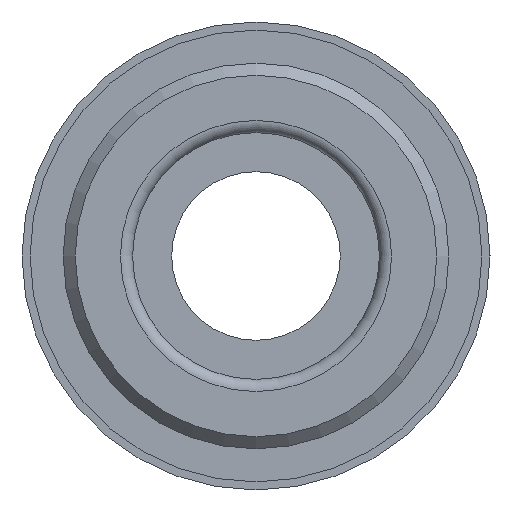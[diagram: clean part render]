
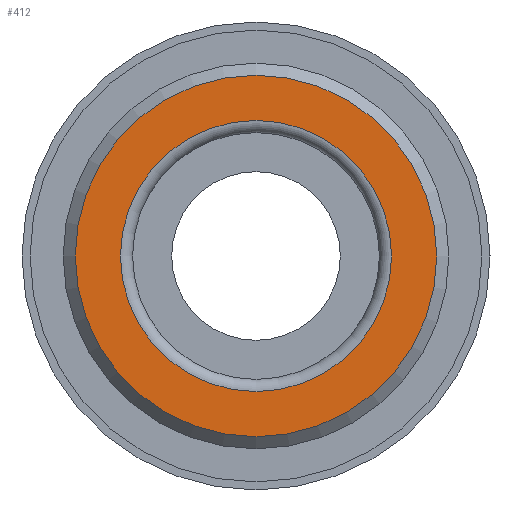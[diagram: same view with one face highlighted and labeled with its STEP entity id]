
A CAD part, left-side view. The second image highlights one B-rep face of the part: STEP entity #412.
In plain terms, the highlighted planar face has unit normal (-1, 0, 0).
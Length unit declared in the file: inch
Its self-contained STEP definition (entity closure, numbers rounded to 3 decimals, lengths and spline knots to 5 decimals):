
#52=CIRCLE('',#460,0.268);
#53=CIRCLE('',#461,0.201);
#84=ORIENTED_EDGE('',*,*,#184,.F.);
#85=ORIENTED_EDGE('',*,*,#185,.T.);
#184=EDGE_CURVE('',#234,#234,#52,.T.);
#185=EDGE_CURVE('',#235,#235,#53,.T.);
#234=VERTEX_POINT('',#666);
#235=VERTEX_POINT('',#668);
#291=EDGE_LOOP('',(#84));
#292=EDGE_LOOP('',(#85));
#345=FACE_BOUND('',#291,.T.);
#346=FACE_BOUND('',#292,.T.);
#398=PLANE('',#459);
#412=ADVANCED_FACE('',(#345,#346),#398,.F.);
#459=AXIS2_PLACEMENT_3D('',#664,#528,#529);
#460=AXIS2_PLACEMENT_3D('',#665,#530,#531);
#461=AXIS2_PLACEMENT_3D('',#667,#532,#533);
#528=DIRECTION('',(1.,0.,0.));
#529=DIRECTION('',(0.,0.,-1.));
#530=DIRECTION('',(1.,0.,0.));
#531=DIRECTION('',(0.,0.,-1.));
#532=DIRECTION('',(1.,0.,0.));
#533=DIRECTION('',(0.,0.,-1.));
#664=CARTESIAN_POINT('',(0.,0.,0.));
#665=CARTESIAN_POINT('',(0.,0.,0.));
#666=CARTESIAN_POINT('',(0.,0.,-0.268));
#667=CARTESIAN_POINT('',(0.,0.,0.));
#668=CARTESIAN_POINT('',(0.,0.,-0.201));
